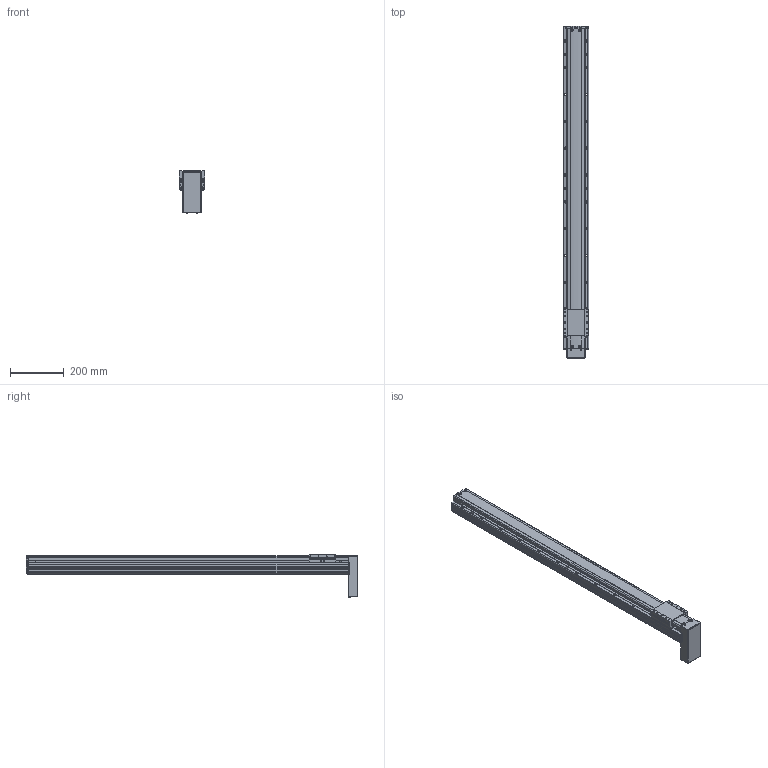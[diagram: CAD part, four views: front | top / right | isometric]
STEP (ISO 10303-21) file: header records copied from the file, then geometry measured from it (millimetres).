
FILE_DESCRIPTION(('STEP AP214'),'1');
FILE_NAME('Z:/Web/3D/PSA95/STP/PSA95-1000 (3D)/PSA95ㅁㅁ-1000PB.stp','2014-07-03T01:10:21',(' '),(' '),'Spatial InterOp 3D',' ',' ');
FILE_SCHEMA(('automotive_design'));
Length unit declared in the file: millimetre
Products named in the file (29): BASE; RRCV; 스크루 : Round - M4.0 x 10.0; 너트 : Square - M10.0 x 220.7419; RR1500; FRCV-090; 스크루 : Round - M4.0 x 6.0; SLBL-PA90; MTPL COVER; 스크루 : Round - M3.0 x 6.0; 1; 2
Bounding box: 95.1 x 1237.5 x 159.57 mm (x, y, z)
Volume: 6798604.6 mm3; surface area: 659775.7 mm2
Topology: 29 solids, 29 shells, 2129 faces, 5685 edges, 3611 vertices
Faces by surface type: plane 1142, cylinder 669, cone 230, sphere 50, bspline 24, torus 14
Entity records: 85560 total; most frequent: CARTESIAN_POINT 14605, DIRECTION 11288, ORIENTED_EDGE 11066, EDGE_CURVE 5533, AXIS2_PLACEMENT_3D 3808, LINE 3672, VECTOR 3672, VERTEX_POINT 3611
